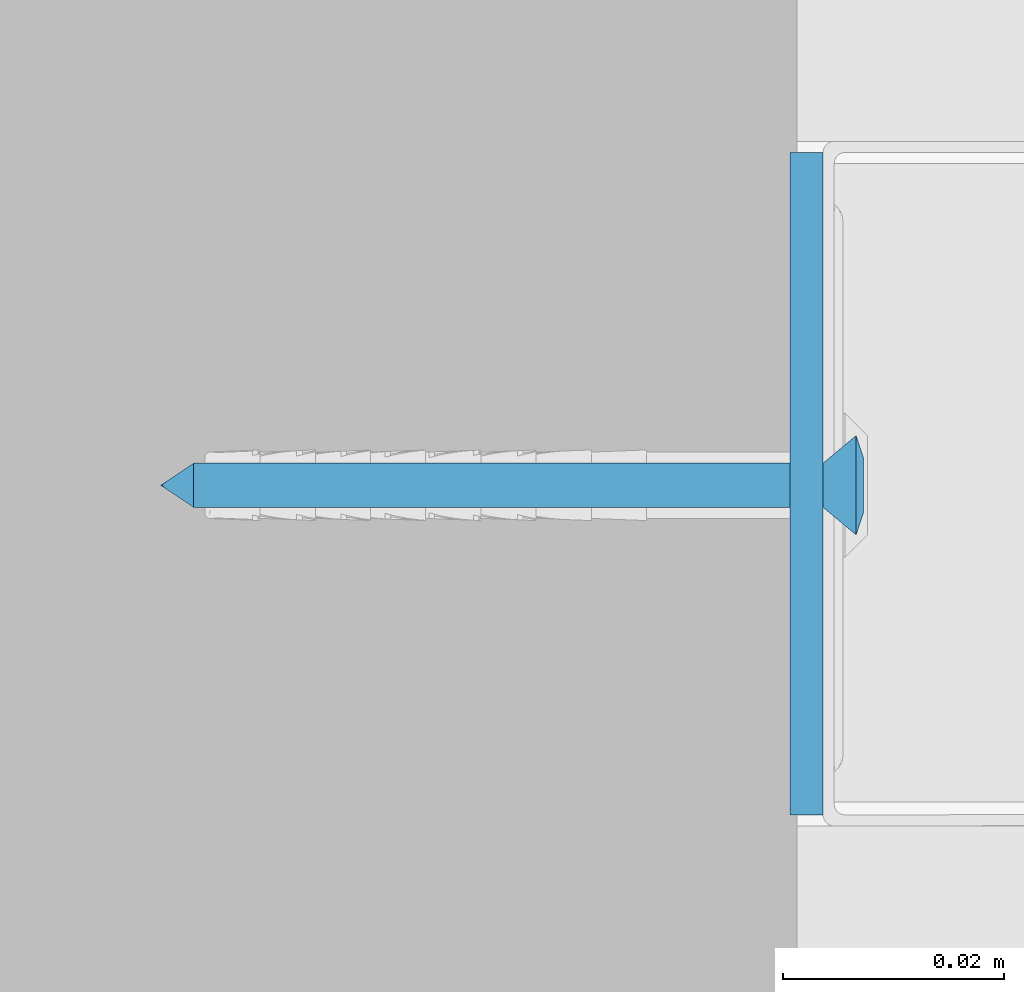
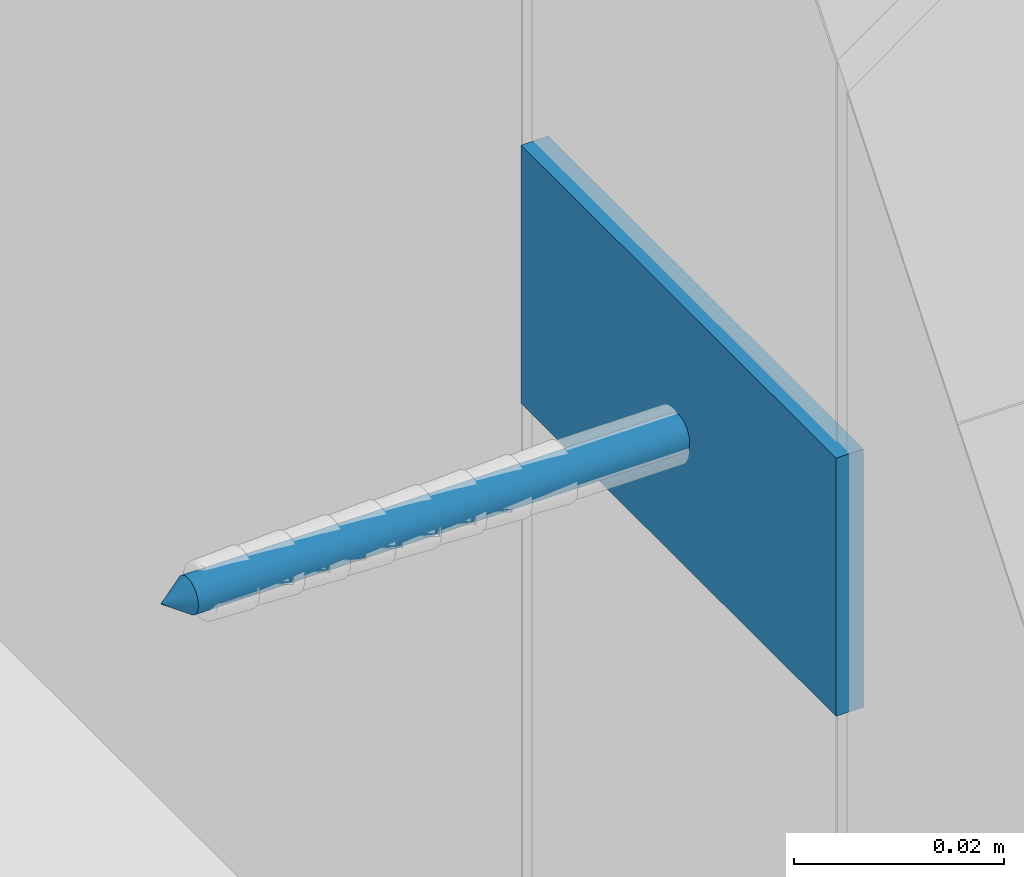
# One storey, part 33 of 62: 2 walls.
"""IFC2X3 building model written with IfcOpenShell, lengths in millimetres."""

import ifcopenshell
import ifcopenshell.guid

model = None  # the IFC model being written
_history = None  # IfcOwnerHistory: only IFC2X3 demands one
_inside = {}  # id of a spatial element -> (the spatial element, [elements in it])
_under = {}  # id of a project, library or spatial element -> (it, [spatial elements below it])
_declared = {}  # id of a project -> (the project, [libraries it declares])
_typed = {}  # id of a type object -> (the type object, [elements of that type])
_made_of = {}  # id of a material, layer set ... -> (it, [elements and type objects made of it])


def new_model(schema):
    """Start an empty IFC model of exactly this schema.

    Asked for "IFC4X3", IfcOpenShell would pick the latest addendum, in which some entities
    have other attributes; the version numbers below select the first issue.
    IFC2X3 requires an IfcOwnerHistory on every rooted entity: one is made here for all.
    """
    global model, _history
    if schema == "IFC4X3":
        model = ifcopenshell.file(schema_version=(4, 3, 0, 0))
    else:
        model = ifcopenshell.file(schema=schema)
    _inside.clear()
    _under.clear()
    _declared.clear()
    _typed.clear()
    _made_of.clear()
    _history = None
    if model.schema == "IFC2X3":
        org = make("IfcOrganization", Name="unknown")
        user = make(
            "IfcPersonAndOrganization",
            ThePerson=make("IfcPerson", FamilyName="unknown"),
            TheOrganization=org,
        )
        app = make(
            "IfcApplication",
            ApplicationDeveloper=org,
            Version="unknown",
            ApplicationFullName="unknown",
            ApplicationIdentifier="unknown",
        )
        _history = make(
            "IfcOwnerHistory",
            OwningUser=user,
            OwningApplication=app,
            ChangeAction="ADDED",
            CreationDate=0,
        )
    return model


def make(cls, **values):
    """One entity of the class cls with the attributes given. An attribute that is None is left unset."""
    return model.create_entity(
        cls, **{name: value for name, value in values.items() if value is not None}
    )


def rooted(cls, **values):
    """An entity with a GlobalId (a new one), such as an element, a storey or a relation."""
    return make(cls, GlobalId=ifcopenshell.guid.new(), OwnerHistory=_history, **values)


def si_unit(unit_type, name, prefix=None):
    """IfcSIUnit, for example si_unit("LENGTHUNIT", "METRE", prefix="MILLI")."""
    return make("IfcSIUnit", UnitType=unit_type, Prefix=prefix, Name=name)


def assignment(units):
    """IfcUnitAssignment: the units of a project."""
    return None if units is None else make("IfcUnitAssignment", Units=units)


def point(xyz):
    """IfcCartesianPoint."""
    return None if xyz is None else make("IfcCartesianPoint", Coordinates=xyz)


def direction(xyz):
    """IfcDirection."""
    return None if xyz is None else make("IfcDirection", DirectionRatios=xyz)


def frame(location, z_axis=None, x_axis=None):
    """IfcAxis2Placement3D, a coordinate frame: its origin and axes. An axis left out is left unset."""
    return make(
        "IfcAxis2Placement3D",
        Location=point(location),
        Axis=direction(z_axis),
        RefDirection=direction(x_axis),
    )


def origin_with_axes():
    """The frame at (0, 0, 0) with the z axis (0, 0, 1) and the x axis (1, 0, 0) written out."""
    return frame((0.0, 0.0, 0.0), z_axis=(0.0, 0.0, 1.0), x_axis=(1.0, 0.0, 0.0))


def place(relative_to, where):
    """IfcLocalPlacement: puts the frame where relative to a parent placement (None: the world)."""
    return make(
        "IfcLocalPlacement", PlacementRelTo=relative_to, RelativePlacement=where
    )


def context(
    kind, dimensions, precision=None, world=None, true_north=None, identifier=None
):
    """IfcGeometricRepresentationContext, for example the 3D "Model" context."""
    return make(
        "IfcGeometricRepresentationContext",
        ContextIdentifier=identifier,
        ContextType=kind,
        CoordinateSpaceDimension=dimensions,
        Precision=precision,
        WorldCoordinateSystem=world,
        TrueNorth=true_north,
    )


def subcontext(parent, identifier, kind, view, scale=None):
    """IfcGeometricRepresentationSubContext, for example "Body" below "Model"."""
    return make(
        "IfcGeometricRepresentationSubContext",
        ContextIdentifier=identifier,
        ContextType=kind,
        ParentContext=parent,
        TargetScale=scale,
        TargetView=view,
    )


def project(units=None, contexts=None):
    """IfcProject with its units and contexts."""
    return rooted(
        "IfcProject",
        Name="project",
        RepresentationContexts=contexts,
        UnitsInContext=assignment(units),
    )


def spatial(cls, under=None, at=None, **own):
    """A site, building, storey or space (cls), placed at a placement, below another one or the project."""
    s = rooted(cls, ObjectPlacement=at, **own)
    if under is not None:
        _under.setdefault(under.id(), (under, []))[1].append(s)
    return s


def faces_of(points, faces, orient=None, outer=None):
    """IfcFace entities. A face is a list of loops; a loop is a list of indices into points, from 0.

    orient and outer hold one flag for each loop. By default every Orientation is true, the
    first loop of a face is its IfcFaceOuterBound and the others are IfcFaceBound.
    """
    made = []
    for i, loops in enumerate(faces):
        bounds = []
        for j, loop in enumerate(loops):
            is_outer = j == 0 if outer is None else outer[i][j]
            bounds.append(
                make(
                    "IfcFaceOuterBound" if is_outer else "IfcFaceBound",
                    Bound=make("IfcPolyLoop", Polygon=[points[k] for k in loop]),
                    Orientation=True if orient is None else orient[i][j],
                )
            )
        made.append(make("IfcFace", Bounds=bounds))
    return made


def faceted_brep(points, faces, orient=None, outer=None, voids=None):
    """IfcFacetedBrep: a solid bounded by flat faces; with voids (closed shells), ...WithVoids."""
    shared = [point(p) for p in points]
    hull = make("IfcClosedShell", CfsFaces=faces_of(shared, faces, orient, outer))
    if voids is None:
        return make("IfcFacetedBrep", Outer=hull)
    return make(
        "IfcFacetedBrepWithVoids",
        Outer=hull,
        Voids=[
            make(cls, CfsFaces=faces_of(shared, fs, o, b)) for cls, fs, o, b in voids
        ],
    )


def shape(context_of_items, identifier, shape_type, items):
    """IfcShapeRepresentation: the items that make up one representation, for example the "Body"."""
    return make(
        "IfcShapeRepresentation",
        ContextOfItems=context_of_items,
        RepresentationIdentifier=identifier,
        RepresentationType=shape_type,
        Items=items,
    )


def material(Name=None, Category=None):
    """IfcMaterial."""
    return make("IfcMaterial", Name=Name, Category=Category)


def made_of(thing, what):
    """Note that an element or type object is made of a material, layer set ...; save() writes the relation."""
    if what is not None:
        _made_of.setdefault(what.id(), (what, []))[1].append(thing)
    return thing


def type_object(cls, material=None, **own):
    """A type object (cls), such as IfcWallType, which elements share."""
    return made_of(rooted(cls, **own), material)


def element(
    cls,
    number,
    at=None,
    inside=None,
    cuts=None,
    type_object=None,
    material=None,
    context=None,
    identifier="Body",
    shape_type=None,
    held_by="IfcProductDefinitionShape",
    body=None,
    shapes=None,
    **own,
):
    """One element of the class cls, such as IfcWall. Its Tag is "e" and its number.

    at: its placement. inside: the storey or other place that contains it. cuts: it is an
    opening in that element (IfcRelVoidsElement). A single representation is given by context,
    identifier, shape_type and body (its items); several are given by shapes. held_by: the class
    of the entity that holds the representations. save() writes the other relations.
    """
    e = rooted(cls, Tag="e%d" % number, ObjectPlacement=at, **own)
    if body is not None:
        shapes = [shape(context, identifier, shape_type, body)]
    if shapes is not None:
        e.Representation = make(held_by, Representations=shapes)
    if inside is not None:
        _inside.setdefault(inside.id(), (inside, []))[1].append(e)
    if cuts is not None:
        rooted(
            "IfcRelVoidsElement", RelatingBuildingElement=cuts, RelatedOpeningElement=e
        )
    if type_object is not None:
        _typed.setdefault(type_object.id(), (type_object, []))[1].append(e)
    return made_of(e, material)


def aggregate(whole, parts):
    """IfcRelAggregates: a whole, such as a stair, and the parts it consists of."""
    return rooted("IfcRelAggregates", RelatingObject=whole, RelatedObjects=parts)


def save(model, path):
    """Write the relations noted so far, then the file.

    IfcRelAggregates (storeys below a building ...), IfcRelContainedInSpatialStructure (elements
    in a storey), IfcRelDefinesByType, IfcRelAssociatesMaterial and IfcRelDeclares: one each for
    every whole, place, type object, material and project.
    """
    for whole, parts in _under.values():
        aggregate(whole, parts)
    for where, things in _inside.values():
        rooted(
            "IfcRelContainedInSpatialStructure",
            RelatedElements=things,
            RelatingStructure=where,
        )
    for kind, things in _typed.values():
        rooted("IfcRelDefinesByType", RelatedObjects=things, RelatingType=kind)
    for what, things in _made_of.values():
        rooted("IfcRelAssociatesMaterial", RelatedObjects=things, RelatingMaterial=what)
    for by, libraries in _declared.values():
        rooted("IfcRelDeclares", RelatingContext=by, RelatedDefinitions=libraries)
    model.write(path)


model = new_model("IFC2X3")

# Units and contexts
model_context = context("Model", 3, world=origin_with_axes())
body_context = subcontext(model_context, "Body", "Model", "MODEL_VIEW")
ifc_project = project(units=[si_unit("LENGTHUNIT", "METRE", prefix="MILLI"), si_unit("AREAUNIT", "SQUARE_METRE"), si_unit("VOLUMEUNIT", "CUBIC_METRE")], contexts=[model_context])

# Site, building, storey
site_placement = place(None, frame((2152.14102611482, -2015.0250894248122, 57.61556563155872), z_axis=(0.0, 0.0, 1.0), x_axis=(-1.1102230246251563e-16, 1.0, 0.0)))
site = spatial("IfcSite", under=ifc_project, at=site_placement, Name="Default Site", CompositionType="ELEMENT")
building_placement = place(site_placement, origin_with_axes())
building = spatial("IfcBuilding", under=site, at=building_placement, Name="Default Building", CompositionType="ELEMENT")
storey_placement = place(building_placement, origin_with_axes())
storey = spatial("IfcBuildingStorey", under=building, at=storey_placement, Name="Default Building Storey", CompositionType="ELEMENT", Elevation=57.61556563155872)

# Walls
ifc_material = material(Name="Default")
wall_type_1 = type_object("IfcWallType", Name="Kołek rozporowy min. fi 6#35", PredefinedType="NOTDEFINED")
wall_1_placement = place(storey_placement, frame((6291.176283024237, 2016.3286110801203, 1539.671890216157), z_axis=(-6.858158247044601e-13, -1.0, 7.64238051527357e-14), x_axis=(-1.6476028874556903e-11, 7.642380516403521e-14, 1.0)))
element("IfcWall", 1, at=wall_1_placement, inside=storey, type_object=wall_type_1, material=ifc_material, Name="Kołek rozporowy min. fi 6", context=body_context, shape_type="Brep", body=[
    faceted_brep([(-1438.3141994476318, 3453.2833099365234, -0.46425670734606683), (-1435.8141422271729, 3453.2833099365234, -3.464256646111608), (-1435.7895851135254, 3452.970266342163, -3.464256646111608), (-1438.2587671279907, 3452.579259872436, -0.46425670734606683), (-1435.7162714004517, 3452.6650905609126, -3.464256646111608), (-1438.093900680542, 3451.892614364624, -0.46425670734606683), (-1435.5961084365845, 3452.3751735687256, -3.464256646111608), (-1437.8236532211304, 3451.240301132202, -0.46425670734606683), (-1435.4321956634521, 3452.107667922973, -3.464256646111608), (-1437.4547004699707, 3450.6382942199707, -0.46425670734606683), (-1435.22834777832, 3451.8690109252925, -3.464256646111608), (-1436.9961023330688, 3450.101137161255, -0.46425670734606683), (-1434.9896907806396, 3451.665163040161, -3.464256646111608), (-1436.4591836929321, 3449.642658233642, -0.46425670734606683), (-1434.7221851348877, 3451.501131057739, -3.464256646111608), (-1435.8570575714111, 3449.2735862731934, -0.46425670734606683), (-1434.4321489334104, 3451.381206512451, -3.464256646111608), (-1435.2047443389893, 3449.0034580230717, -0.46425670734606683), (-1434.1269731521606, 3451.307773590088, -3.464256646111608), (-1434.5180988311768, 3448.838710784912, -0.46425670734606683), (-1433.8141679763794, 3451.28321647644, -3.464256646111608), (-1433.8141679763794, 3448.7831592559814, -0.46425670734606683), (-1433.5012435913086, 3451.307773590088, -3.464256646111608), (-1433.110237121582, 3448.838710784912, -0.46425670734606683), (-1433.1960678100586, 3451.381206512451, -3.464256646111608), (-1432.4235916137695, 3449.0034580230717, -0.46425670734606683), (-1432.9061508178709, 3451.501131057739, -3.464256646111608), (-1431.771159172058, 3449.2735862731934, -0.46425670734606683), (-1432.6385259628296, 3451.665163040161, -3.464256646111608), (-1431.1691522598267, 3449.642658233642, -0.46425670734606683), (-1432.3999881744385, 3451.8690109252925, -3.464256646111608), (-1430.6321144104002, 3450.101137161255, -0.46425670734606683), (-1432.1961402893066, 3452.107667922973, -3.464256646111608), (-1430.1735162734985, 3450.6382942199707, -0.46425670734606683), (-1432.0321083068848, 3452.3751735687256, -3.464256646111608), (-1429.8045635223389, 3451.240301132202, -0.46425670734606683), (-1431.9120645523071, 3452.6650905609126, -3.464256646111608), (-1429.5344352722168, 3451.892614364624, -0.46425670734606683), (-1431.8387508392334, 3453.5961151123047, -3.464256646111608), (-1429.369568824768, 3453.9871215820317, -0.46425670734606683), (-1429.314136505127, 3453.2833099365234, -0.46425670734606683), (-1431.814193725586, 3453.2833099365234, -3.464256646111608), (-1429.369568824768, 3452.579259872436, -0.46425670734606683), (-1431.8387508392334, 3452.970266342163, -3.464256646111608), (-1431.9120645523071, 3453.9012908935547, -3.464256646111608), (-1429.5344352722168, 3454.6737670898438, -0.46425670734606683), (-1432.0321083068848, 3454.191207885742, -3.464256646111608), (-1429.8045635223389, 3455.3260803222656, -0.46425670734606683), (-1432.1961402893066, 3454.458713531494, -3.464256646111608), (-1430.1735162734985, 3455.9283256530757, -0.46425670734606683), (-1432.3999881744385, 3454.6973705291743, -3.464256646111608), (-1430.6321144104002, 3456.465244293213, -0.46425670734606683), (-1432.6385259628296, 3454.9012184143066, -3.464256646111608), (-1431.1691522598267, 3456.923723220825, -0.46425670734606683), (-1432.9061508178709, 3455.065250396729, -3.464256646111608), (-1431.771159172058, 3457.2927951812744, -0.46425670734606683), (-1433.1960678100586, 3455.1854133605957, -3.464256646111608), (-1432.4235916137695, 3457.562923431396, -0.46425670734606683), (-1433.5012435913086, 3455.25860786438, -3.464256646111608), (-1433.110237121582, 3457.7279090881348, -0.46425670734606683), (-1433.8141679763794, 3455.283164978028, -3.464256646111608), (-1433.8141679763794, 3457.7832221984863, -0.46425670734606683), (-1434.3430995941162, 3457.7519893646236, -0.46425670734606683), (-1434.1269731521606, 3455.25860786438, -3.464256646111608), (-1434.4321489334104, 3455.1854133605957, -3.464256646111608), (-1434.8646402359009, 3457.6590061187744, -0.46425670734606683), (-1435.3716373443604, 3457.504987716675, -0.46425670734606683), (-1434.7221851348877, 3455.065250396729, -3.464256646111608), (-1435.8570575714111, 3457.2927951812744, -0.46425670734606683), (-1434.9896907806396, 3454.9012184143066, -3.464256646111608), (-1435.22834777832, 3454.6973705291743, -3.464256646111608), (-1436.3142251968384, 3457.024812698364, -0.46425670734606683), (-1436.7367029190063, 3456.705093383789, -0.46425670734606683), (-1437.118649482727, 3456.337928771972, -0.46425670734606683), (-1437.4547004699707, 3455.9283256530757, -0.46425670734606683), (-1435.4321956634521, 3454.458713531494, -3.464256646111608), (-1435.5961084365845, 3454.191207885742, -3.464256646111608), (-1437.8236532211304, 3455.3260803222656, -0.46425670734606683), (-1435.7162714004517, 3453.9012908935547, -3.464256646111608), (-1438.093900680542, 3454.6737670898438, -0.46425670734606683), (-1435.7895851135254, 3453.5961151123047, -3.464256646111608), (-1438.2587671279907, 3453.9871215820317, -0.46425670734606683), (-1434.2052936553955, 3455.752372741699, 0.20073754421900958), (-1433.8141679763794, 3455.7831287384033, 0.20073754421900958), (-1434.5866441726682, 3455.6608200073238, 0.20073754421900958), (-1434.9491596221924, 3455.510854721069, 0.20073754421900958), (-1435.2836608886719, 3455.305814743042, 0.20073754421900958), (-1435.581922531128, 3455.0509452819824, 0.20073754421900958), (-1435.836672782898, 3454.7526836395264, 0.20073754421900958), (-1436.0417127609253, 3454.418182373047, 0.20073754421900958), (-1436.1917972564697, 3454.0557861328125, 0.20073754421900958), (-1436.2833499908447, 3453.6743164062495, 0.20073754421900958), (-1436.3141059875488, 3453.2833099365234, 0.20073754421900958), (-1436.2833499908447, 3452.8920650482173, 0.20073754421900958), (-1436.1917972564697, 3452.5105953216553, 0.20073754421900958), (-1436.0417127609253, 3452.148199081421, 0.20073754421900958), (-1435.836672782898, 3451.8136978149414, 0.20073754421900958), (-1435.581922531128, 3451.5154361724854, 0.20073754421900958), (-1435.2836608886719, 3451.260566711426, 0.20073754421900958), (-1434.9491596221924, 3451.0557651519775, 0.20073754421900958), (-1434.5866441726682, 3450.905561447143, 0.20073754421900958), (-1433.4230422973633, 3450.8140087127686, 0.20073754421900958), (-1433.8141679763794, 3450.7832527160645, 0.20073754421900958), (-1434.2052936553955, 3450.8140087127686, 0.20073754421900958), (-1433.0415725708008, 3450.905561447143, 0.20073754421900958), (-1432.6791763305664, 3451.0557651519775, 0.20073754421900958), (-1432.344675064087, 3451.260566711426, 0.20073754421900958), (-1432.0464134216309, 3451.5154361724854, 0.20073754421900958), (-1431.7916631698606, 3451.8136978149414, 0.20073754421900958), (-1431.5866231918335, 3452.148199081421, 0.20073754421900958), (-1431.436538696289, 3452.5105953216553, 0.20073754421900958), (-1431.344985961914, 3452.8920650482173, 0.20073754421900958), (-1431.3141107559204, 3453.2833099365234, 0.20073754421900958), (-1431.344985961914, 3453.6743164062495, 0.20073754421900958), (-1431.436538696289, 3454.0557861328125, 0.20073754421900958), (-1431.5866231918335, 3454.418182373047, 0.20073754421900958), (-1431.7916631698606, 3454.7526836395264, 0.20073754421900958), (-1432.0464134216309, 3455.0509452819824, 0.20073754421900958), (-1432.344675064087, 3455.305814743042, 0.20073754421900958), (-1432.6791763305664, 3455.510854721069, 0.20073754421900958), (-1433.0415725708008, 3455.6608200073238, 0.20073754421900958), (-1433.4230422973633, 3455.752372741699, 0.20073754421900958), (-1433.8141679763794, 3453.2833099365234, -63.46425414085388), (-1435.7895851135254, 3452.970266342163, -60.464255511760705), (-1435.8141422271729, 3453.2833099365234, -60.464255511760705), (-1435.7162714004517, 3452.6650905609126, -60.464255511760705), (-1435.5961084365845, 3452.3751735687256, -60.464255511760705), (-1435.4321956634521, 3452.107667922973, -60.464255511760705), (-1435.22834777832, 3451.8690109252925, -60.464255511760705), (-1434.9896907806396, 3451.665163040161, -60.464255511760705), (-1434.7221851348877, 3451.501131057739, -60.464255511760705), (-1434.4321489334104, 3451.381206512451, -60.464255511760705), (-1434.1269731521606, 3451.307773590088, -60.464255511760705), (-1433.8141679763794, 3451.28321647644, -60.464255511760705), (-1433.5012435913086, 3451.307773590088, -60.464255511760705), (-1433.1960678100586, 3451.381206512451, -60.464255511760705), (-1432.9061508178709, 3451.501131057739, -60.464255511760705), (-1432.6385259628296, 3451.665163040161, -60.464255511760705), (-1432.3999881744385, 3451.8690109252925, -60.464255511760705), (-1432.1961402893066, 3452.107667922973, -60.464255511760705), (-1432.0321083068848, 3452.3751735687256, -60.464255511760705), (-1431.9120645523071, 3452.6650905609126, -60.464255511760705), (-1431.8387508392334, 3452.970266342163, -60.464255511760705), (-1431.814193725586, 3453.2833099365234, -60.464255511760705), (-1431.8387508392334, 3453.5961151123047, -60.464255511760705), (-1431.9120645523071, 3453.9012908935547, -60.464255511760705), (-1432.0321083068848, 3454.191207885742, -60.464255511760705), (-1432.1961402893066, 3454.458713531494, -60.464255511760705), (-1432.3999881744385, 3454.6973705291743, -60.464255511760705), (-1432.6385259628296, 3454.9012184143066, -60.464255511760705), (-1432.9061508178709, 3455.065250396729, -60.464255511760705), (-1433.1960678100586, 3455.1854133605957, -60.464255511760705), (-1433.5012435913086, 3455.25860786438, -60.464255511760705), (-1433.8141679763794, 3455.283164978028, -60.464255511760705), (-1434.1269731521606, 3455.25860786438, -60.464255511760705), (-1434.4321489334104, 3455.1854133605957, -60.464255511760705), (-1434.7221851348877, 3455.065250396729, -60.464255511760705), (-1434.9896907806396, 3454.9012184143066, -60.464255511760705), (-1435.22834777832, 3454.6973705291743, -60.464255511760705), (-1435.4321956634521, 3454.458713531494, -60.464255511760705), (-1435.5961084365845, 3454.191207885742, -60.464255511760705), (-1435.7162714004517, 3453.9012908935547, -60.464255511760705), (-1435.7895851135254, 3453.5961151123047, -60.464255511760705), (-1436.0417127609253, 3454.418182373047, 0.049999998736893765), (-1436.1917972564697, 3454.0557861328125, 0.049999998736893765), (-1436.2833499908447, 3453.6743164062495, 0.049999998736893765), (-1436.3141059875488, 3453.2833099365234, 0.049999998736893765), (-1436.2833499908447, 3452.8920650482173, 0.049999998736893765), (-1436.1917972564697, 3452.5105953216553, 0.049999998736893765), (-1436.0417127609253, 3452.148199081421, 0.049999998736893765), (-1435.836672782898, 3451.8136978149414, 0.049999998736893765), (-1435.581922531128, 3451.5154361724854, 0.049999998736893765), (-1435.2836608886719, 3451.260566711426, 0.049999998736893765), (-1434.9491596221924, 3451.0557651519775, 0.049999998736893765), (-1434.5866441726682, 3450.905561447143, 0.049999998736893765), (-1434.2052936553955, 3450.8140087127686, 0.049999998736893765), (-1433.8141679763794, 3450.7832527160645, 0.049999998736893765), (-1433.4230422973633, 3450.8140087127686, 0.049999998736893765), (-1433.0415725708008, 3450.905561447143, 0.049999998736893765), (-1432.6791763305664, 3451.0557651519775, 0.049999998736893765), (-1432.344675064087, 3451.260566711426, 0.049999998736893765), (-1432.0464134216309, 3451.5154361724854, 0.049999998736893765), (-1431.7916631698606, 3451.8136978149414, 0.049999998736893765), (-1431.5866231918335, 3452.148199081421, 0.049999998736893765), (-1431.436538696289, 3452.5105953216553, 0.049999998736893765), (-1431.344985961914, 3452.8920650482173, 0.049999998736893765), (-1431.3141107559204, 3453.2833099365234, 0.049999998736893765), (-1431.344985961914, 3453.6743164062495, 0.049999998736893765), (-1431.436538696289, 3454.0557861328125, 0.049999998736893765), (-1431.5866231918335, 3454.418182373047, 0.049999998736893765), (-1431.7916631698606, 3454.7526836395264, 0.049999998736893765), (-1432.0464134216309, 3455.0509452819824, 0.049999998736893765), (-1432.344675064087, 3455.305814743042, 0.049999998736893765), (-1432.6791763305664, 3455.510854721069, 0.049999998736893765), (-1433.0415725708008, 3455.6608200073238, 0.049999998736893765), (-1433.4230422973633, 3455.752372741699, 0.049999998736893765), (-1433.8141679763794, 3455.7831287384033, 0.049999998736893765), (-1434.2052936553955, 3455.752372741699, 0.049999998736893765), (-1434.5866441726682, 3455.6608200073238, 0.049999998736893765), (-1434.9491596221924, 3455.510854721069, 0.049999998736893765), (-1435.2836608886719, 3455.305814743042, 0.049999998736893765), (-1435.581922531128, 3455.0509452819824, 0.049999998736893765), (-1435.836672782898, 3454.7526836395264, 0.049999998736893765), (-1434.3141317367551, 3452.7831077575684, 0.049999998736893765), (-1435.8141422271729, 3452.7831077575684, 0.049999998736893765), (-1435.8141422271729, 3453.7832736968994, 0.049999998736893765), (-1434.3141317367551, 3453.7832736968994, 0.049999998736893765), (-1434.3141317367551, 3455.283164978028, 0.049999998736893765), (-1433.3142042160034, 3455.283164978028, 0.049999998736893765), (-1433.3142042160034, 3453.7832736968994, 0.049999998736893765), (-1431.814193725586, 3453.7832736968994, 0.049999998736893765), (-1431.814193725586, 3452.7831077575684, 0.049999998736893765), (-1433.3142042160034, 3452.7831077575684, 0.049999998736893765), (-1433.3142042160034, 3451.28321647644, 0.049999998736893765), (-1434.3141317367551, 3451.28321647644, 0.049999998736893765), (-1434.3141317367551, 3452.7831077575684, -1.799262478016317), (-1434.3141317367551, 3451.28321647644, -1.799262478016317), (-1433.3142042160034, 3451.28321647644, -1.799262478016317), (-1433.3142042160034, 3452.7831077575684, -1.799262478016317), (-1431.814193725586, 3452.7831077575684, -1.799262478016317), (-1431.814193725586, 3453.7832736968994, -1.799262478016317), (-1433.3142042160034, 3453.7832736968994, -1.799262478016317), (-1433.3142042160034, 3455.283164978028, -1.799262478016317), (-1434.3141317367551, 3455.283164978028, -1.799262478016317), (-1434.3141317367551, 3453.7832736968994, -1.799262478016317), (-1435.8141422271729, 3453.7832736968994, -1.799262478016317), (-1435.8141422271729, 3452.7831077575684, -1.799262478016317)], [[[0, 1, 2, 3]], [[4, 5, 3, 2]], [[6, 7, 5, 4]], [[7, 6, 8, 9]], [[10, 11, 9, 8]], [[11, 10, 12, 13]], [[14, 15, 13, 12]], [[16, 17, 15, 14]], [[17, 16, 18, 19]], [[20, 21, 19, 18]], [[21, 20, 22, 23]], [[24, 25, 23, 22]], [[26, 27, 25, 24]], [[27, 26, 28, 29]], [[30, 31, 29, 28]], [[31, 30, 32, 33]], [[34, 35, 33, 32]], [[36, 37, 35, 34]], [[38, 39, 40, 41]], [[41, 40, 42, 43]], [[37, 36, 43, 42]], [[44, 45, 39, 38]], [[46, 47, 45, 44]], [[47, 46, 48, 49]], [[50, 51, 49, 48]], [[51, 50, 52, 53]], [[54, 55, 53, 52]], [[56, 57, 55, 54]], [[57, 56, 58, 59]], [[60, 61, 59, 58]], [[62, 61, 63]], [[61, 60, 63]], [[63, 64, 62]], [[64, 65, 62]], [[66, 65, 64]], [[64, 67, 66]], [[67, 68, 66]], [[69, 70, 71]], [[70, 72, 71]], [[71, 68, 69]], [[68, 67, 69]], [[70, 73, 72]], [[74, 73, 75]], [[73, 70, 75]], [[76, 77, 74, 75]], [[78, 79, 77, 76]], [[79, 78, 80, 81]], [[1, 0, 81, 80]], [[82, 83, 62]], [[83, 61, 62]], [[62, 65, 82]], [[65, 84, 82]], [[66, 68, 84]], [[68, 85, 84]], [[84, 65, 66]], [[86, 85, 71]], [[85, 68, 71]], [[72, 73, 87]], [[87, 86, 72]], [[86, 71, 72]], [[88, 87, 74]], [[87, 73, 74]], [[77, 89, 88, 74]], [[79, 90, 89, 77]], [[90, 79, 81, 91]], [[0, 92, 91, 81]], [[92, 0, 3, 93]], [[5, 94, 93, 3]], [[7, 95, 94, 5]], [[95, 7, 9, 96]], [[11, 97, 96, 9]], [[97, 11, 13, 98]], [[15, 99, 98, 13]], [[17, 100, 99, 15]], [[23, 101, 102, 21]], [[21, 102, 103, 19]], [[100, 17, 19, 103]], [[25, 104, 101, 23]], [[27, 105, 104, 25]], [[105, 27, 29, 106]], [[31, 107, 106, 29]], [[107, 31, 33, 108]], [[35, 109, 108, 33]], [[37, 110, 109, 35]], [[110, 37, 42, 111]], [[40, 112, 111, 42]], [[112, 40, 39, 113]], [[45, 114, 113, 39]], [[47, 115, 114, 45]], [[115, 47, 49, 116]], [[51, 117, 116, 49]], [[117, 51, 53, 118]], [[55, 119, 118, 53]], [[57, 120, 119, 55]], [[120, 57, 59, 121]], [[61, 83, 121, 59]], [[122, 123, 124]], [[122, 125, 123]], [[122, 126, 125]], [[127, 126, 122]], [[122, 128, 127]], [[129, 128, 122]], [[122, 130, 129]], [[122, 131, 130]], [[132, 131, 122]], [[122, 133, 132]], [[134, 133, 122]], [[122, 135, 134]], [[122, 136, 135]], [[137, 136, 122]], [[122, 138, 137]], [[139, 138, 122]], [[122, 140, 139]], [[122, 141, 140]], [[142, 141, 122]], [[122, 143, 142]], [[144, 143, 122]], [[122, 145, 144]], [[122, 146, 145]], [[147, 146, 122]], [[122, 148, 147]], [[149, 148, 122]], [[122, 150, 149]], [[122, 151, 150]], [[152, 151, 122]], [[122, 153, 152]], [[154, 153, 122]], [[122, 155, 154]], [[122, 156, 155]], [[157, 156, 122]], [[122, 158, 157]], [[159, 158, 122]], [[122, 160, 159]], [[122, 161, 160]], [[162, 161, 122]], [[124, 162, 122]], [[1, 124, 123, 2]], [[125, 4, 2, 123]], [[126, 6, 4, 125]], [[6, 126, 127, 8]], [[128, 10, 8, 127]], [[10, 128, 129, 12]], [[130, 14, 12, 129]], [[131, 16, 14, 130]], [[16, 131, 132, 18]], [[133, 20, 18, 132]], [[20, 133, 134, 22]], [[135, 24, 22, 134]], [[136, 26, 24, 135]], [[26, 136, 137, 28]], [[138, 30, 28, 137]], [[30, 138, 139, 32]], [[140, 34, 32, 139]], [[141, 36, 34, 140]], [[144, 38, 41, 143]], [[143, 41, 43, 142]], [[36, 141, 142, 43]], [[145, 44, 38, 144]], [[146, 46, 44, 145]], [[46, 146, 147, 48]], [[148, 50, 48, 147]], [[50, 148, 149, 52]], [[150, 54, 52, 149]], [[151, 56, 54, 150]], [[56, 151, 152, 58]], [[153, 60, 58, 152]], [[60, 153, 154, 63]], [[155, 64, 63, 154]], [[156, 67, 64, 155]], [[67, 156, 157, 69]], [[158, 70, 69, 157]], [[70, 158, 159, 75]], [[160, 76, 75, 159]], [[161, 78, 76, 160]], [[78, 161, 162, 80]], [[124, 1, 80, 162]], [[163, 164, 165, 166, 167, 168, 169, 170, 171, 172, 173, 174, 175, 176, 177, 178, 179, 180, 181, 182, 183, 184, 185, 186, 187, 188, 189, 190, 191, 192, 193, 194, 195, 196, 197, 198, 199, 200, 201, 202], [203, 204, 205, 206, 207, 208, 209, 210, 211, 212, 213, 214]], [[187, 186, 112, 113]], [[113, 114, 188, 187]], [[114, 115, 189, 188]], [[190, 189, 115, 116]], [[116, 117, 191, 190]], [[192, 191, 117, 118]], [[118, 119, 193, 192]], [[119, 120, 194, 193]], [[195, 194, 120, 121]], [[121, 83, 196, 195]], [[197, 196, 83, 82]], [[82, 84, 198, 197]], [[84, 85, 199, 198]], [[200, 199, 85, 86]], [[86, 87, 201, 200]], [[202, 201, 87, 88]], [[88, 89, 163, 202]], [[89, 90, 164, 163]], [[92, 93, 167, 166]], [[91, 92, 166, 165]], [[165, 164, 90, 91]], [[93, 94, 168, 167]], [[94, 95, 169, 168]], [[170, 169, 95, 96]], [[96, 97, 171, 170]], [[172, 171, 97, 98]], [[98, 99, 173, 172]], [[99, 100, 174, 173]], [[175, 174, 100, 103]], [[103, 102, 176, 175]], [[177, 176, 102, 101]], [[101, 104, 178, 177]], [[104, 105, 179, 178]], [[180, 179, 105, 106]], [[106, 107, 181, 180]], [[182, 181, 107, 108]], [[108, 109, 183, 182]], [[109, 110, 184, 183]], [[185, 184, 110, 111]], [[111, 112, 186, 185]], [[215, 216, 217, 218, 219, 220, 221, 222, 223, 224, 225, 226]], [[216, 214, 213, 217]], [[215, 203, 214, 216]], [[226, 204, 203, 215]], [[225, 205, 204, 226]], [[224, 206, 205, 225]], [[223, 207, 206, 224]], [[222, 208, 207, 223]], [[221, 209, 208, 222]], [[220, 210, 209, 221]], [[219, 211, 210, 220]], [[218, 212, 211, 219]], [[217, 213, 212, 218]]]),
])
wall_type_2 = type_object("IfcWallType", Name="Taśma uszczelniająca piankowa RIGIPS szer.30mm#9", PredefinedType="NOTDEFINED")
wall_2_placement = place(storey_placement, frame((2808.037086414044, 2019.778611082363, 120.9602480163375), z_axis=(0.0, 0.0, 1.0), x_axis=(1.0, 0.0, 0.0)))
element("IfcWall", 2, at=wall_2_placement, inside=storey, type_object=wall_type_2, material=ifc_material, Name="Taśma uszczelniająca piankowa RIGIPS szer.30mm", context=body_context, shape_type="Brep", body=[
    faceted_brep([(59.99999865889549, 0.0, 4.511946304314e-12), (0.0, 0.0, 0.0), (1.0828671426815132e-12, -2.2379254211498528e-11, -29.999999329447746), (59.99999865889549, -2.2379254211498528e-11, -29.999999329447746), (0.0, 3.000000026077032, 0.0), (1.0828671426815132e-12, 3.000000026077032, -29.999999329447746), (59.99999865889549, 3.000000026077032, 0.0), (59.99999865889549, 3.000000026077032, -29.999999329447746)], [[[0, 1, 2, 3]], [[1, 4, 5, 2]], [[4, 6, 7, 5]], [[6, 0, 3, 7]], [[7, 3, 2, 5]], [[0, 6, 4, 1]]]),
])

save(model, "model.ifc")
